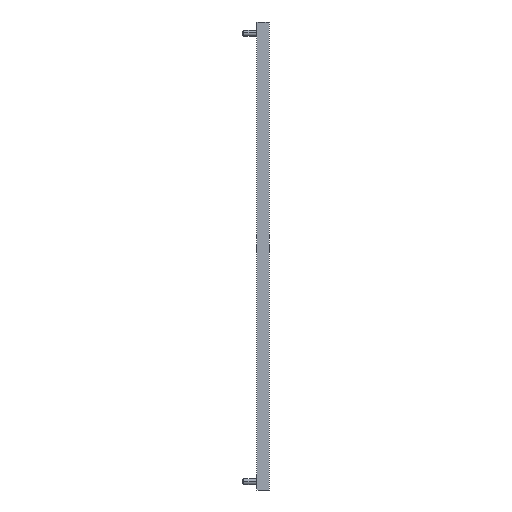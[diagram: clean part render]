
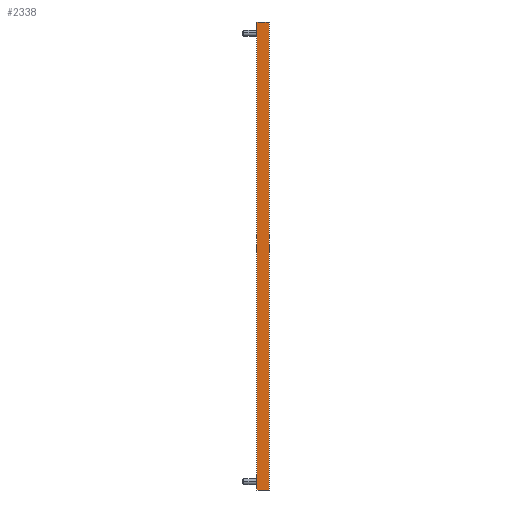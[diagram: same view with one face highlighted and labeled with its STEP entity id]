
A CAD part, left-side view. The second image highlights one B-rep face of the part: STEP entity #2338.
In plain terms, the highlighted planar face has unit normal (-1, 0, 0).
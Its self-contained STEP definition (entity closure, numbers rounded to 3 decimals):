
#40 = ORIENTED_EDGE ( 'NONE', *, *, #1991, .T. ) ;
#43 = CARTESIAN_POINT ( 'NONE',  ( -8., 0., 479. ) ) ;
#92 = EDGE_CURVE ( 'NONE', #585, #616, #623, .T. ) ;
#216 = EDGE_LOOP ( 'NONE', ( #2402, #2430, #522, #40, #1313, #2224, #2691, #2943 ) ) ;
#256 = PLANE ( 'NONE',  #886 ) ;
#383 = DIRECTION ( 'NONE',  ( 0., 1., 0. ) ) ;
#457 = VERTEX_POINT ( 'NONE', #43 ) ;
#522 = ORIENTED_EDGE ( 'NONE', *, *, #92, .T. ) ;
#585 = VERTEX_POINT ( 'NONE', #2182 ) ;
#588 = CARTESIAN_POINT ( 'NONE',  ( -8., 9.3, 479. ) ) ;
#609 = LINE ( 'NONE', #3090, #1143 ) ;
#616 = VERTEX_POINT ( 'NONE', #1786 ) ;
#623 = LINE ( 'NONE', #2090, #3000 ) ;
#679 = EDGE_CURVE ( 'NONE', #1303, #585, #2508, .T. ) ;
#714 = LINE ( 'NONE', #1497, #1868 ) ;
#844 = EDGE_CURVE ( 'NONE', #457, #1513, #2208, .T. ) ;
#886 = AXIS2_PLACEMENT_3D ( 'NONE', #1268, #2286, #3041 ) ;
#1026 = VECTOR ( 'NONE', #1286, 1000. ) ;
#1051 = CARTESIAN_POINT ( 'NONE',  ( -8., 12.5, 479. ) ) ;
#1143 = VECTOR ( 'NONE', #2156, 1000. ) ;
#1147 = VERTEX_POINT ( 'NONE', #588 ) ;
#1151 = DIRECTION ( 'NONE',  ( 0., -1., 0. ) ) ;
#1218 = DIRECTION ( 'NONE',  ( 0., -1., 0. ) ) ;
#1233 = VECTOR ( 'NONE', #383, 1000. ) ;
#1254 = VERTEX_POINT ( 'NONE', #1947 ) ;
#1268 = CARTESIAN_POINT ( 'NONE',  ( -8., 0., 479. ) ) ;
#1286 = DIRECTION ( 'NONE',  ( 0., -1., 0. ) ) ;
#1303 = VERTEX_POINT ( 'NONE', #3181 ) ;
#1305 = DIRECTION ( 'NONE',  ( 0., 0., 1. ) ) ;
#1313 = ORIENTED_EDGE ( 'NONE', *, *, #3150, .T. ) ;
#1389 = CARTESIAN_POINT ( 'NONE',  ( -8., 0., 0. ) ) ;
#1406 = VECTOR ( 'NONE', #1218, 1000. ) ;
#1497 = CARTESIAN_POINT ( 'NONE',  ( -8., 0., 479. ) ) ;
#1513 = VERTEX_POINT ( 'NONE', #2274 ) ;
#1532 = CARTESIAN_POINT ( 'NONE',  ( -8., 0., 0. ) ) ;
#1581 = DIRECTION ( 'NONE',  ( 0., 1., 0. ) ) ;
#1786 = CARTESIAN_POINT ( 'NONE',  ( -8., 3.2, 0. ) ) ;
#1812 = FACE_OUTER_BOUND ( 'NONE', #216, .T. ) ;
#1848 = DIRECTION ( 'NONE',  ( 0., -1., 0. ) ) ;
#1868 = VECTOR ( 'NONE', #1581, 1000. ) ;
#1881 = CARTESIAN_POINT ( 'NONE',  ( -8., 0., 0. ) ) ;
#1919 = CARTESIAN_POINT ( 'NONE',  ( -8., 0., 479. ) ) ;
#1947 = CARTESIAN_POINT ( 'NONE',  ( -8., 12.5, 479. ) ) ;
#1991 = EDGE_CURVE ( 'NONE', #616, #2141, #2928, .T. ) ;
#2090 = CARTESIAN_POINT ( 'NONE',  ( -8., 0., 0. ) ) ;
#2141 = VERTEX_POINT ( 'NONE', #1881 ) ;
#2156 = DIRECTION ( 'NONE',  ( 0., 0., 1. ) ) ;
#2182 = CARTESIAN_POINT ( 'NONE',  ( -8., 9.3, 0. ) ) ;
#2208 = LINE ( 'NONE', #1919, #1233 ) ;
#2224 = ORIENTED_EDGE ( 'NONE', *, *, #844, .T. ) ;
#2274 = CARTESIAN_POINT ( 'NONE',  ( -8., 3.2, 479. ) ) ;
#2286 = DIRECTION ( 'NONE',  ( -1., 0., 0. ) ) ;
#2338 = ADVANCED_FACE ( 'NONE', ( #1812 ), #256, .T. ) ;
#2402 = ORIENTED_EDGE ( 'NONE', *, *, #3253, .F. ) ;
#2430 = ORIENTED_EDGE ( 'NONE', *, *, #679, .T. ) ;
#2502 = VECTOR ( 'NONE', #1305, 1000. ) ;
#2508 = LINE ( 'NONE', #1532, #1406 ) ;
#2540 = EDGE_CURVE ( 'NONE', #1513, #1147, #714, .T. ) ;
#2666 = VECTOR ( 'NONE', #1151, 1000. ) ;
#2691 = ORIENTED_EDGE ( 'NONE', *, *, #2540, .T. ) ;
#2824 = CARTESIAN_POINT ( 'NONE',  ( -8., 0., 479. ) ) ;
#2928 = LINE ( 'NONE', #1389, #2666 ) ;
#2943 = ORIENTED_EDGE ( 'NONE', *, *, #3138, .F. ) ;
#2998 = LINE ( 'NONE', #1051, #1026 ) ;
#3000 = VECTOR ( 'NONE', #1848, 1000. ) ;
#3041 = DIRECTION ( 'NONE',  ( 0., 0., 1. ) ) ;
#3090 = CARTESIAN_POINT ( 'NONE',  ( -8., 12.5, 479. ) ) ;
#3138 = EDGE_CURVE ( 'NONE', #1254, #1147, #2998, .T. ) ;
#3150 = EDGE_CURVE ( 'NONE', #2141, #457, #3258, .T. ) ;
#3181 = CARTESIAN_POINT ( 'NONE',  ( -8., 12.5, 0. ) ) ;
#3253 = EDGE_CURVE ( 'NONE', #1303, #1254, #609, .T. ) ;
#3258 = LINE ( 'NONE', #2824, #2502 ) ;
